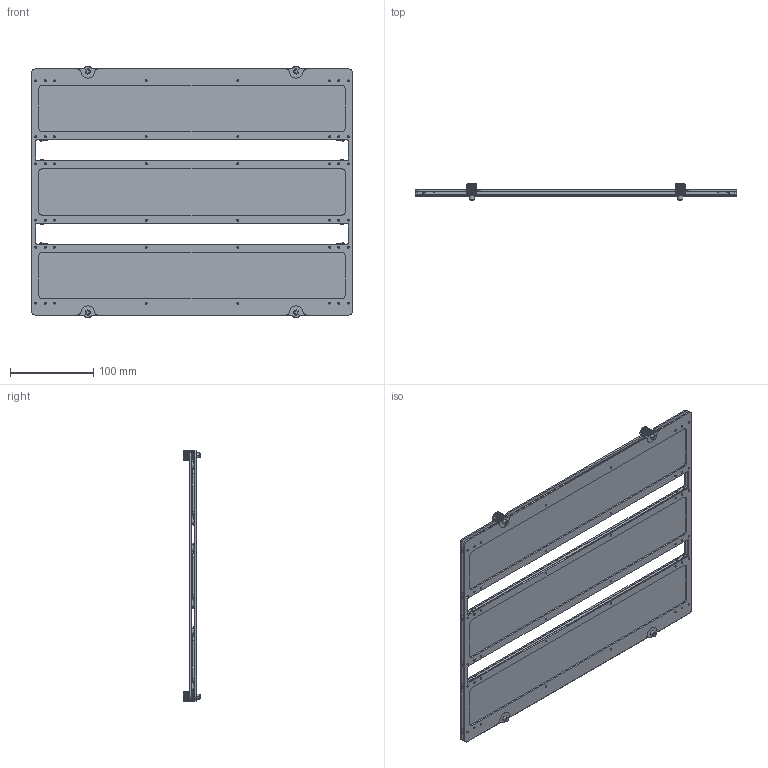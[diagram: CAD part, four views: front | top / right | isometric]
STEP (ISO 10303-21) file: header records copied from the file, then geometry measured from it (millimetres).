
FILE_DESCRIPTION((''),'2;1');
FILE_NAME('GLP-21120_ASM','2022-07-08T11:14:26',('Michael.Spatz'),(''),'CREO PARAMETRIC BY PTC INC, 2022014','CREO PARAMETRIC BY PTC INC, 2022014','');
FILE_SCHEMA(('AUTOMOTIVE_DESIGN { 1 0 10303 214 1 1 1 1 }'));
Length unit declared in the file: millimetre
Products named in the file (7): GLP-13687; GLP-13686; GLP-13685; GLP-13684; GLP-13688; GLP-13689; GLP-21120_ASM
Assembly tree (29 placements, depth 2):
  GLP-21120_ASM
    GLP-13687  x2
    GLP-13686  x4
    GLP-13685  x6
    GLP-13684  x12
    GLP-13688
    GLP-13689  x4
Bounding box: 385 x 20 x 301.58 mm (x, y, z)
Volume: 524407.3 mm3; surface area: 476734.9 mm2
Topology: 41 solids, 41 shells, 1802 faces, 4824 edges, 3116 vertices
Faces by surface type: cylinder 836, plane 758, cone 208
Entity records: 26849 total; most frequent: DIRECTION 3930, CARTESIAN_POINT 3881, ORIENTED_EDGE 3200, EDGE_CURVE 1600, AXIS2_PLACEMENT_3D 1475, VERTEX_POINT 1047, PRESENTATION_STYLE_ASSIGNMENT 981, STYLED_ITEM 981
